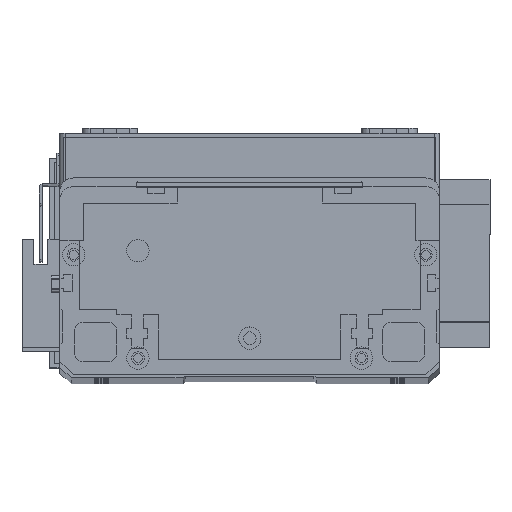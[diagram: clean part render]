
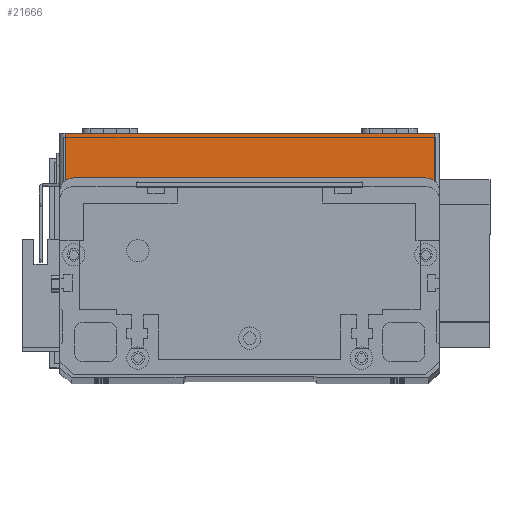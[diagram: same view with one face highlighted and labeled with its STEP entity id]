
A CAD part, top view. The second image highlights one B-rep face of the part: STEP entity #21666.
In plain terms, the highlighted planar face has unit normal (0, 0, 1) as drawn and (0, -1, 0) by its records, which use the part's own axes.
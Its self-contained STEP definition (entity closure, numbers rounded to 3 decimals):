
#877 = EDGE_CURVE ( 'NONE', #19635, #23536, #14914, .T. ) ;
#1357 = EDGE_CURVE ( 'NONE', #22137, #23536, #23744, .T. ) ;
#1931 = ORIENTED_EDGE ( 'NONE', *, *, #877, .F. ) ;
#2337 = CARTESIAN_POINT ( 'NONE',  ( 134., 0., 19.5 ) ) ;
#2812 = VECTOR ( 'NONE', #3856, 1000. ) ;
#2818 = EDGE_LOOP ( 'NONE', ( #1931, #24349, #23845, #12943 ) ) ;
#3194 = EDGE_CURVE ( 'NONE', #19995, #22137, #24191, .T. ) ;
#3226 = DIRECTION ( 'NONE',  ( 0., 0., 1. ) ) ;
#3471 = CARTESIAN_POINT ( 'NONE',  ( 2., 0., 19.5 ) ) ;
#3856 = DIRECTION ( 'NONE',  ( 1., 0., 0. ) ) ;
#4523 = DIRECTION ( 'NONE',  ( 0., 0., 1. ) ) ;
#5370 = VECTOR ( 'NONE', #19101, 1000. ) ;
#6604 = EDGE_CURVE ( 'NONE', #19635, #19995, #10671, .T. ) ;
#9345 = CARTESIAN_POINT ( 'NONE',  ( 134., 0., 0. ) ) ;
#9451 = FACE_OUTER_BOUND ( 'NONE', #2818, .T. ) ;
#9941 = VECTOR ( 'NONE', #4523, 1000. ) ;
#9950 = VECTOR ( 'NONE', #14905, 1000. ) ;
#10671 = LINE ( 'NONE', #3471, #9950 ) ;
#10893 = CARTESIAN_POINT ( 'NONE',  ( 0., 0., 19.5 ) ) ;
#12265 = CARTESIAN_POINT ( 'NONE',  ( 0., 0., 19.5 ) ) ;
#12843 = AXIS2_PLACEMENT_3D ( 'NONE', #12265, #16851, #3226 ) ;
#12943 = ORIENTED_EDGE ( 'NONE', *, *, #1357, .T. ) ;
#14543 = PLANE ( 'NONE',  #12843 ) ;
#14905 = DIRECTION ( 'NONE',  ( 0., 0., -1. ) ) ;
#14914 = LINE ( 'NONE', #10893, #2812 ) ;
#16851 = DIRECTION ( 'NONE',  ( 0., 1., 0. ) ) ;
#18349 = CARTESIAN_POINT ( 'NONE',  ( 2., 0., 19.5 ) ) ;
#19101 = DIRECTION ( 'NONE',  ( 1., 0., 0. ) ) ;
#19604 = CARTESIAN_POINT ( 'NONE',  ( 134., 0., 19.5 ) ) ;
#19635 = VERTEX_POINT ( 'NONE', #18349 ) ;
#19995 = VERTEX_POINT ( 'NONE', #23969 ) ;
#21666 = ADVANCED_FACE ( 'NONE', ( #9451 ), #14543, .F. ) ;
#22137 = VERTEX_POINT ( 'NONE', #9345 ) ;
#23536 = VERTEX_POINT ( 'NONE', #19604 ) ;
#23744 = LINE ( 'NONE', #2337, #9941 ) ;
#23845 = ORIENTED_EDGE ( 'NONE', *, *, #3194, .T. ) ;
#23969 = CARTESIAN_POINT ( 'NONE',  ( 2., 0., 0. ) ) ;
#24191 = LINE ( 'NONE', #28123, #5370 ) ;
#24349 = ORIENTED_EDGE ( 'NONE', *, *, #6604, .T. ) ;
#28123 = CARTESIAN_POINT ( 'NONE',  ( 0., 0., 0. ) ) ;
